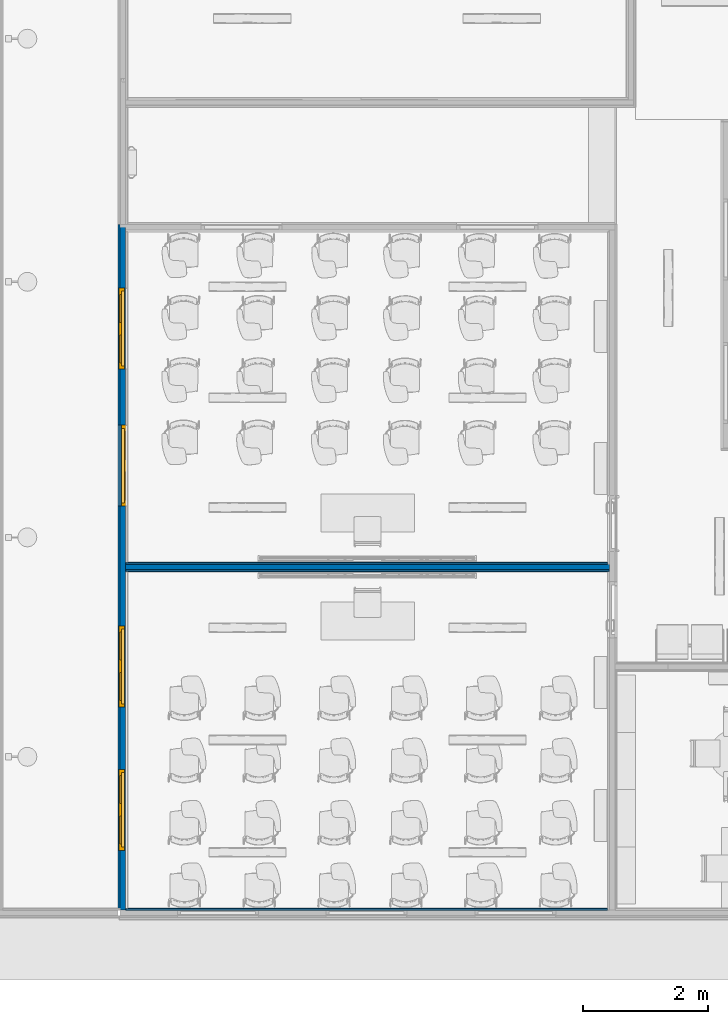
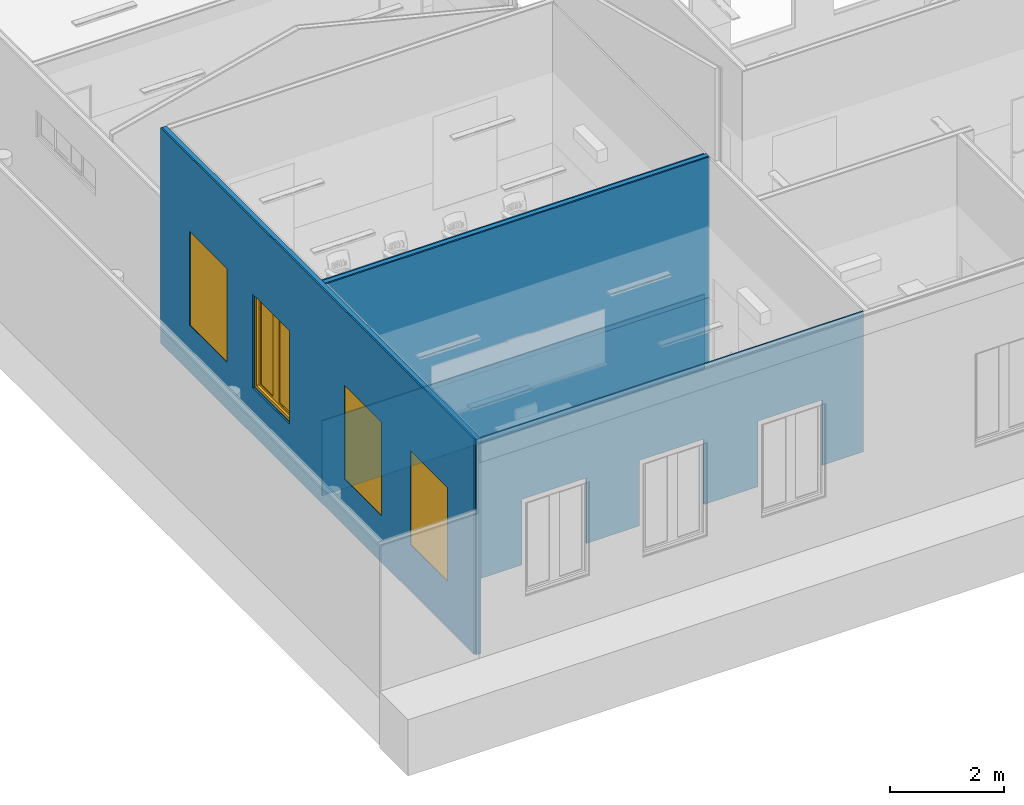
# One storey, part 3 of 155: 8 walls, 4 windows, 31 openings.
"""IFC2X3 building model written with IfcOpenShell, lengths in metres."""

from ifc_helpers import new_model, entity, si_unit, converted_unit, derived_unit, direction, frame, frame_2d, origin, origin_2d_with_axis, place, context, subcontext, project, spatial, polyline, rectangle, outline, extrude, source, transform, mapped, material, layer, layer_set, layer_usage, type_object, type_shapes, element, fill, save


model = new_model("IFC2X3")

# Units and contexts
model_context = context("Model", 3, precision=1e-05, world=origin(), true_north=direction((6.12303176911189e-17, 1.0)))
body_context = subcontext(model_context, "Body", "Model", "MODEL_VIEW")
ifc_project = project(units=[si_unit("LENGTHUNIT", "METRE"), si_unit("AREAUNIT", "SQUARE_METRE"), si_unit("VOLUMEUNIT", "CUBIC_METRE"), converted_unit("PLANEANGLEUNIT", "DEGREE", entity("IfcRatioMeasure", 0.0174532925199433), si_unit("PLANEANGLEUNIT", "RADIAN"), dimensions=[0, 0, 0, 0, 0, 0, 0]), si_unit("MASSUNIT", "GRAM", prefix="KILO"), derived_unit("MASSDENSITYUNIT", [(si_unit("MASSUNIT", "GRAM", prefix="KILO"), 1), (si_unit("LENGTHUNIT", "METRE"), -3)]), si_unit("TIMEUNIT", "SECOND"), si_unit("FREQUENCYUNIT", "HERTZ"), si_unit("THERMODYNAMICTEMPERATUREUNIT", "DEGREE_CELSIUS"), derived_unit("THERMALTRANSMITTANCEUNIT", [(si_unit("MASSUNIT", "GRAM", prefix="KILO"), 1), (si_unit("THERMODYNAMICTEMPERATUREUNIT", "KELVIN"), -1), (si_unit("TIMEUNIT", "SECOND"), -3)]), derived_unit("VOLUMETRICFLOWRATEUNIT", [(si_unit("LENGTHUNIT", "METRE"), 3), (si_unit("TIMEUNIT", "SECOND"), -1)]), si_unit("ELECTRICCURRENTUNIT", "AMPERE"), si_unit("ELECTRICVOLTAGEUNIT", "VOLT"), si_unit("POWERUNIT", "WATT"), si_unit("FORCEUNIT", "NEWTON", prefix="KILO"), si_unit("ILLUMINANCEUNIT", "LUX"), si_unit("LUMINOUSFLUXUNIT", "LUMEN"), si_unit("LUMINOUSINTENSITYUNIT", "CANDELA"), derived_unit("USERDEFINED", [(si_unit("MASSUNIT", "GRAM", prefix="KILO"), -1), (si_unit("LENGTHUNIT", "METRE"), -2), (si_unit("TIMEUNIT", "SECOND"), 3), (si_unit("LUMINOUSFLUXUNIT", "LUMEN"), 1)]), derived_unit("LINEARVELOCITYUNIT", [(si_unit("LENGTHUNIT", "METRE"), 1), (si_unit("TIMEUNIT", "SECOND"), -1)]), si_unit("PRESSUREUNIT", "PASCAL"), derived_unit("USERDEFINED", [(si_unit("LENGTHUNIT", "METRE"), -2), (si_unit("MASSUNIT", "GRAM", prefix="KILO"), 1), (si_unit("TIMEUNIT", "SECOND"), -2)])], contexts=[model_context])

# Site, building, storey
site_placement = place(None, frame((26.9889013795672, -17.5624287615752, 0.0)))
site = spatial("IfcSite", under=ifc_project, at=site_placement, Name="Default", CompositionType="ELEMENT")
building_placement = place(site_placement, origin())
building = spatial("IfcBuilding", under=site, at=building_placement, Name="C. C. L. Monsenhor Antônio Sampaio", CompositionType="ELEMENT")
storey_placement = place(building_placement, frame((0.0, 0.0, 1.19999999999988)))
storey = spatial("IfcBuildingStorey", under=building, at=storey_placement, Name="Nível 1.2", CompositionType="ELEMENT", Elevation=1.19999999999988)

# Wall, openings, windows
ifc_material_1 = material(Name="ALVENARIA")
ifc_layer_1 = layer(ifc_material_1, 0.09)
ifc_layer_set_1 = layer_set([ifc_layer_1], Name="Parede básica:ENucleo parede 15cm")
ifc_layer_usage_1 = layer_usage(ifc_layer_set_1, "AXIS2", "POSITIVE", -0.045)
wall_type_1 = type_object("IfcWallType", Name="Parede básica:ENucleo parede 15cm", PredefinedType="STANDARD", material=ifc_layer_set_1)
wall_1_placement = place(storey_placement, frame((-14.0655522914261, -39.3330663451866, 0.0), z_axis=(0.0, 0.0, 1.0), x_axis=(0.0, 1.0, 0.0)))
wall_1 = element("IfcWallStandardCase", 1, at=wall_1_placement, inside=storey, type_object=wall_type_1, material=ifc_layer_usage_1, Name="Parede básica:ENucleo parede 15cm", ObjectType="Parede básica:ENucleo parede 15cm", context=body_context, shape_type="SweptSolid", body=[
    extrude(rectangle(XDim=11.0000000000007, YDim=0.0900000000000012, at=frame_2d((5.50000000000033, 1.00613961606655e-16), x_axis=(-1.0, 0.0))), origin(), (0.0, 0.0, 1.0), 4.60000000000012),
])
opening_1_placement = place(wall_1_placement, origin())
element("IfcOpeningElement", 2, at=opening_1_placement, cuts=wall_1, Name="Parede básica:ENucleo parede 15cm", ObjectType="Opening", context=body_context, shape_type="SweptSolid", body=[
    extrude(rectangle(XDim=1.27000000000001, YDim=2.07, at=frame_2d((0.0, 1.66533453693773e-16), x_axis=(0.0, 1.0))), frame((14.3800000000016, -1.569, 1.20000000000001), z_axis=(0.0, 1.0, 0.0), x_axis=(-1.0, 0.0, 0.0)), (0.0, 0.0, 1.0), 3.048),
])
opening_2_placement = place(wall_1_placement, origin())
element("IfcOpeningElement", 3, at=opening_2_placement, cuts=wall_1, Name="Parede básica:ENucleo parede 15cm", ObjectType="Opening", context=body_context, shape_type="SweptSolid", body=[
    extrude(rectangle(XDim=1.27000000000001, YDim=2.07, at=frame_2d((0.0, 1.66533453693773e-16), x_axis=(0.0, 1.0))), frame((20.6999999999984, -1.569, 1.20000000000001), z_axis=(0.0, 1.0, 0.0), x_axis=(-1.0, 0.0, 0.0)), (0.0, 0.0, 1.0), 3.048),
])
opening_3_placement = place(wall_1_placement, origin())
element("IfcOpeningElement", 4, at=opening_3_placement, cuts=wall_1, Name="Parede básica:ENucleo parede 15cm", ObjectType="Opening", context=body_context, shape_type="SweptSolid", body=[
    extrude(rectangle(XDim=1.27000000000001, YDim=2.07, at=frame_2d((1.11022302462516e-15, 1.66533453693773e-16), x_axis=(0.0, 1.0))), frame((24.2999999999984, -1.569, 1.20000000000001), z_axis=(0.0, 1.0, 0.0), x_axis=(-1.0, 0.0, 0.0)), (0.0, 0.0, 1.0), 3.048),
])
opening_4_placement = place(wall_1_placement, origin())
element("IfcOpeningElement", 5, at=opening_4_placement, cuts=wall_1, Name="Parede básica:ENucleo parede 15cm", ObjectType="Opening", context=body_context, shape_type="SweptSolid", body=[
    extrude(rectangle(XDim=1.27000000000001, YDim=2.07, at=frame_2d((1.11022302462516e-15, 1.66533453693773e-16), x_axis=(0.0, 1.0))), frame((27.4999999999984, -1.569, 1.20000000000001), z_axis=(0.0, 1.0, 0.0), x_axis=(-1.0, 0.0, 0.0)), (0.0, 0.0, 1.0), 3.048),
])
opening_5_placement = place(wall_1_placement, origin())
element("IfcOpeningElement", 6, at=opening_5_placement, cuts=wall_1, Name="Parede básica:ENucleo parede 15cm", ObjectType="Opening", context=body_context, shape_type="SweptSolid", body=[
    extrude(rectangle(XDim=0.569999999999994, YDim=3.06999999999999, at=frame_2d((0.0, -9.99200722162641e-16), x_axis=(1.0, 0.0))), frame((27.5600000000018, -1.569, 2.05000000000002), z_axis=(0.0, 1.0, 0.0), x_axis=(0.0, 0.0, 1.0)), (0.0, 0.0, 1.0), 3.048),
])
opening_6_placement = place(wall_1_placement, origin())
element("IfcOpeningElement", 7, at=opening_6_placement, cuts=wall_1, Name="Parede básica:ENucleo parede 15cm", ObjectType="Opening", context=body_context, shape_type="SweptSolid", body=[
    extrude(rectangle(XDim=0.569999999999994, YDim=3.06999999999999, at=frame_2d((0.0, -9.99200722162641e-16), x_axis=(1.0, 0.0))), frame((23.8600000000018, -1.569, 2.05000000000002), z_axis=(0.0, 1.0, 0.0), x_axis=(0.0, 0.0, 1.0)), (0.0, 0.0, 1.0), 3.048),
])
opening_7_placement = place(wall_1_placement, origin())
element("IfcOpeningElement", 8, at=opening_7_placement, cuts=wall_1, Name="Parede básica:ENucleo parede 15cm", ObjectType="Opening", context=body_context, shape_type="SweptSolid", body=[
    extrude(rectangle(XDim=0.569999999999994, YDim=3.06999999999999, at=frame_2d((0.0, -9.99200722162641e-16), x_axis=(1.0, 0.0))), frame((20.1600000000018, -1.569, 2.05000000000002), z_axis=(0.0, 1.0, 0.0), x_axis=(0.0, 0.0, 1.0)), (0.0, 0.0, 1.0), 3.048),
])
opening_8_placement = place(wall_1_placement, origin())
element("IfcOpeningElement", 9, at=opening_8_placement, cuts=wall_1, Name="Parede básica:ENucleo parede 15cm", ObjectType="Opening", context=body_context, shape_type="SweptSolid", body=[
    extrude(rectangle(XDim=0.570000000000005, YDim=2.07, at=frame_2d((5.27355936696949e-16, 0.0), x_axis=(1.0, 0.0))), frame((14.3200000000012, -1.569, 2.05000000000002), z_axis=(0.0, 1.0, 0.0), x_axis=(0.0, 0.0, 1.0)), (0.0, 0.0, 1.0), 3.048),
])
opening_9_placement = place(wall_1_placement, origin())
element("IfcOpeningElement", 10, at=opening_9_placement, cuts=wall_1, Name="Parede básica:ENucleo parede 15cm", ObjectType="Opening", context=body_context, shape_type="SweptSolid", body=[
    extrude(rectangle(XDim=2.15999999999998, YDim=0.879999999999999, at=origin_2d_with_axis()), frame((31.3199999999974, -1.479, 1.07999999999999), z_axis=(0.0, 1.0, 0.0), x_axis=(0.0, 0.0, 1.0)), (0.0, 0.0, 1.0), 3.048),
])
opening_10_placement = place(wall_1_placement, frame((0.959999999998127, -0.0449999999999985, 1.0)))
opening_10 = element("IfcOpeningElement", 11, at=opening_10_placement, cuts=wall_1, Name="Janela levantamento:130 x 200cm 2:1", ObjectType="Opening", context=body_context, shape_type="SweptSolid", body=[
    extrude(rectangle(XDim=2.0, YDim=1.30000000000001, at=frame_2d((0.999999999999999, 0.650000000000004), x_axis=(1.0, 0.0))), frame((0.0, 0.0, 0.0), z_axis=(0.0, 1.0, 0.0), x_axis=(0.0, 0.0, 1.0)), (0.0, 0.0, 1.0), 0.09),
])
opening_11_placement = place(wall_1_placement, frame((8.68000000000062, -0.0450000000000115, 1.0)))
opening_11 = element("IfcOpeningElement", 12, at=opening_11_placement, cuts=wall_1, Name="Janela levantamento:130 x 200cm 2:1", ObjectType="Opening", context=body_context, shape_type="SweptSolid", body=[
    extrude(rectangle(XDim=2.0, YDim=1.30000000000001, at=frame_2d((0.999999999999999, 0.650000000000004), x_axis=(1.0, 0.0))), frame((0.0, 0.0, 0.0), z_axis=(0.0, 1.0, 0.0), x_axis=(0.0, 0.0, 1.0)), (0.0, 0.0, 1.0), 0.09),
])
opening_12_placement = place(wall_1_placement, frame((7.78000000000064, 0.0449999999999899, 1.0)))
opening_12 = element("IfcOpeningElement", 13, at=opening_12_placement, cuts=wall_1, Name="Janela levantamento:130 x 200cm 2:1", ObjectType="Opening", context=body_context, shape_type="SweptSolid", body=[
    extrude(rectangle(XDim=2.0, YDim=1.30000000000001, at=frame_2d((0.999999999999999, 0.650000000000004), x_axis=(1.0, 0.0))), frame((0.0, 0.0, 0.0), z_axis=(0.0, -1.0, 0.0), x_axis=(0.0, 0.0, 1.0)), (0.0, 0.0, 1.0), 0.09),
])
opening_13_placement = place(wall_1_placement, frame((3.25999999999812, -0.0450000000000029, 1.0)))
opening_13 = element("IfcOpeningElement", 14, at=opening_13_placement, cuts=wall_1, Name="Janela levantamento:130 x 200cm 2:1", ObjectType="Opening", context=body_context, shape_type="SweptSolid", body=[
    extrude(rectangle(XDim=2.0, YDim=1.30000000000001, at=frame_2d((0.999999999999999, 0.650000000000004), x_axis=(1.0, 0.0))), frame((0.0, 0.0, 0.0), z_axis=(0.0, 1.0, 0.0), x_axis=(0.0, 0.0, 1.0)), (0.0, 0.0, 1.0), 0.09),
])
ifc_material_2 = material(Name="Pintura Azul")
window_style = type_object("IfcWindowStyle", Name="130 x 200cm 2", ConstructionType="NOTDEFINED", OperationType="NOTDEFINED", ParameterTakesPrecedence=False, Sizeable=False, material=ifc_material_2)
shared_shape = source(origin(), body_context, "Body", "SweptSolid", [
    extrude(rectangle(XDim=1.3, YDim=0.0209999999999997, at=frame_2d((0.0, 4.33680868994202e-18), x_axis=(1.0, 0.0))), frame((0.650000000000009, 0.0795000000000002, 0.0)), (0.0, 0.0, 1.0), 0.0299999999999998),
    extrude(outline(polyline([(-0.325000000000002, -1.0), (0.325000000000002, -1.0), (0.325000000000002, 1.0), (-0.325000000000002, 1.0), (-0.325000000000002, -1.0)]), holes=[polyline([(0.225000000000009, -0.899999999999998), (-0.225000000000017, -0.899999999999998), (-0.225000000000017, 0.900000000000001), (0.225000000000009, 0.900000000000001), (0.225000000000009, -0.899999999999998)])]), frame((0.325000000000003, 0.0690000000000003, 1.0), z_axis=(0.0, 1.0, 0.0), x_axis=(1.0, 0.0, 0.0)), (0.0, 0.0, 1.0), 0.04),
    extrude(outline(polyline([(-0.650000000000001, -1.0), (0.650000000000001, -1.0), (0.650000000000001, 1.0), (-0.650000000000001, 1.0), (-0.650000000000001, -1.0)]), holes=[polyline([(-0.599999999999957, -0.949999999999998), (-0.599999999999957, 0.94), (0.600000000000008, 0.94), (0.600000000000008, -0.949999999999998), (-0.599999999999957, -0.949999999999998)])]), frame((0.650000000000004, 0.019, 1.0), z_axis=(0.0, 1.0, 0.0), x_axis=(1.0, 0.0, 0.0)), (0.0, 0.0, 1.0), 0.05),
    extrude(rectangle(XDim=0.0205880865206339, YDim=0.450000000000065, at=origin_2d_with_axis()), frame((0.324999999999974, 0.0987059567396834, 0.0999999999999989), z_axis=(0.0, 0.0, 1.0), x_axis=(0.0, 1.0, 0.0)), (0.0, 0.0, 1.0), 1.8),
    extrude(rectangle(XDim=0.0205880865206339, YDim=0.449999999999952, at=frame_2d((0.0, 4.16333634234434e-17), x_axis=(1.0, 0.0))), frame((0.977826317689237, 0.0987059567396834, 0.100000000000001), z_axis=(0.0, 0.0, 1.0), x_axis=(0.0, 1.0, 0.0)), (0.0, 0.0, 1.0), 1.8),
    extrude(outline(polyline([(-1.0, -0.325000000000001), (1.0, -0.325000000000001), (1.0, 0.325000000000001), (-1.0, 0.325000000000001), (-1.0, -0.325000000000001)]), holes=[polyline([(-0.899999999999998, 0.224999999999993), (0.900000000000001, 0.224999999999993), (0.900000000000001, -0.225000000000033), (-0.899999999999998, -0.225000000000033), (-0.899999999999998, 0.224999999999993)])]), frame((0.975000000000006, 0.0690000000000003, 1.0), z_axis=(0.0, 1.0, 0.0), x_axis=(0.0, 0.0, -1.0)), (0.0, 0.0, 1.0), 0.04),
])
type_shapes(window_style, [shared_shape])
window_1_placement = place(opening_11_placement, origin())
window_1 = element("IfcWindow", 15, at=window_1_placement, inside=storey, type_object=window_style, material=ifc_material_2, Name="Janela levantamento:130 x 200cm 2", ObjectType="130 x 200cm 2", OverallHeight=2.0, OverallWidth=1.30000000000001, context=body_context, shape_type="MappedRepresentation", body=[
    mapped(shared_shape, transform((0.0, 0.0, 0.0), scale=1.0)),
])
fill(opening_11, window_1)
window_2_placement = place(opening_12_placement, frame((0.0, 0.0, 0.0), z_axis=(0.0, 0.0, 1.0), x_axis=(-1.0, 0.0, 0.0)))
window_2 = element("IfcWindow", 16, at=window_2_placement, inside=storey, type_object=window_style, material=ifc_material_2, Name="Janela levantamento:130 x 200cm 2", ObjectType="130 x 200cm 2", OverallHeight=2.0, OverallWidth=1.30000000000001, context=body_context, shape_type="MappedRepresentation", body=[
    mapped(shared_shape, transform((0.0, 0.0, 0.0), scale=1.0)),
])
fill(opening_12, window_2)
window_3_placement = place(opening_13_placement, origin())
window_3 = element("IfcWindow", 17, at=window_3_placement, inside=storey, type_object=window_style, material=ifc_material_2, Name="Janela levantamento:130 x 200cm 2", ObjectType="130 x 200cm 2", OverallHeight=2.0, OverallWidth=1.30000000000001, context=body_context, shape_type="MappedRepresentation", body=[
    mapped(shared_shape, transform((0.0, 0.0, 0.0), scale=1.0)),
])
fill(opening_13, window_3)
window_4_placement = place(opening_10_placement, origin())
window_4 = element("IfcWindow", 18, at=window_4_placement, inside=storey, type_object=window_style, material=ifc_material_2, Name="Janela levantamento:130 x 200cm 2", ObjectType="130 x 200cm 2", OverallHeight=2.0, OverallWidth=1.30000000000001, context=body_context, shape_type="MappedRepresentation", body=[
    mapped(shared_shape, transform((0.0, 0.0, 0.0), scale=1.0)),
])
fill(opening_10, window_4)

# Walls
ifc_layer_usage_2 = layer_usage(ifc_layer_set_1, "AXIS2", "POSITIVE", -0.045)
wall_2_placement = place(storey_placement, frame((-14.0205522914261, -33.8280663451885, 0.0)))
element("IfcWallStandardCase", 19, at=wall_2_placement, inside=storey, type_object=wall_type_1, material=ifc_layer_usage_2, Name="Parede básica:ENucleo parede 15cm", ObjectType="Parede básica:ENucleo parede 15cm", context=body_context, shape_type="SweptSolid", body=[
    extrude(rectangle(XDim=7.75999999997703, YDim=0.0899999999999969, at=frame_2d((3.87999999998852, 5.20417042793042e-17), x_axis=(-1.0, 0.0))), origin(), (0.0, 0.0, 1.0), 4.60000000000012),
])
ifc_material_3 = material(Name=".CERÂMICA 10x10 BRANCA")
ifc_layer_2 = layer(ifc_material_3, 0.0035)
ifc_material_4 = material(Name="Argamassa Colante")
ifc_layer_3 = layer(ifc_material_4, 0.02)
ifc_material_5 = material(Name="4")
ifc_layer_4 = layer(ifc_material_5, 0.0015)
ifc_material_6 = material(Name="3")
ifc_layer_5 = layer(ifc_material_6, 0.005)
ifc_layer_set_2 = layer_set([ifc_layer_2, ifc_layer_3, ifc_layer_4, ifc_layer_5], Name="Parede básica:ECeramica branca 10x10cm")
ifc_layer_usage_3 = layer_usage(ifc_layer_set_2, "AXIS2", "POSITIVE", -0.015)
wall_type_2 = type_object("IfcWallType", Name="Parede básica:ECeramica branca 10x10cm", PredefinedType="STANDARD", material=ifc_layer_set_2)
wall_3_placement = place(storey_placement, frame((-14.0205522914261, -33.8880663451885, 0.0)))
element("IfcWallStandardCase", 20, at=wall_3_placement, inside=storey, type_object=wall_type_2, material=ifc_layer_usage_3, Name="Parede básica:ECeramica branca 10x10cm", ObjectType="Parede básica:ECeramica branca 10x10cm", context=body_context, shape_type="SweptSolid", body=[
    extrude(rectangle(XDim=7.75999999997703, YDim=0.0300000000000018, at=frame_2d((3.87999999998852, 0.0), x_axis=(-1.0, 0.0))), origin(), (0.0, 0.0, 1.0), 1.6),
])
ifc_layer_usage_4 = layer_usage(ifc_layer_set_2, "AXIS2", "POSITIVE", -0.015)
wall_4_placement = place(storey_placement, frame((-6.29055229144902, -33.7680663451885, 0.0), z_axis=(0.0, 0.0, 1.0), x_axis=(-1.0, 0.0, 0.0)))
element("IfcWallStandardCase", 21, at=wall_4_placement, inside=storey, type_object=wall_type_2, material=ifc_layer_usage_4, Name="Parede básica:ECeramica branca 10x10cm", ObjectType="Parede básica:ECeramica branca 10x10cm", context=body_context, shape_type="SweptSolid", body=[
    extrude(rectangle(XDim=7.72999999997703, YDim=0.0300000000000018, at=frame_2d((3.86499999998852, 0.0), x_axis=(-1.0, 0.0))), origin(), (0.0, 0.0, 1.0), 1.6),
])
ifc_material_7 = material(Name="Acabamento Branco")
ifc_layer_6 = layer(ifc_material_7, 0.0035)
ifc_material_8 = material(Name="Massa corrida")
ifc_layer_7 = layer(ifc_material_8, 0.02)
ifc_layer_8 = layer(ifc_material_5, 0.0015)
ifc_layer_9 = layer(ifc_material_6, 0.005)
ifc_layer_set_3 = layer_set([ifc_layer_6, ifc_layer_7, ifc_layer_8, ifc_layer_9], Name="Parede básica:EPintura Branca")
ifc_layer_usage_5 = layer_usage(ifc_layer_set_3, "AXIS2", "POSITIVE", -0.015)
wall_type_3 = type_object("IfcWallType", Name="Parede básica:EPintura Branca", PredefinedType="STANDARD", material=ifc_layer_set_3)
wall_5_placement = place(storey_placement, frame((-14.0205522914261, -33.8880663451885, 1.6)))
element("IfcWallStandardCase", 22, at=wall_5_placement, inside=storey, type_object=wall_type_3, material=ifc_layer_usage_5, Name="Parede básica:EPintura Branca", ObjectType="Parede básica:EPintura Branca", context=body_context, shape_type="SweptSolid", body=[
    extrude(rectangle(XDim=7.75999999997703, YDim=0.0300000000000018, at=frame_2d((3.87999999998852, 0.0), x_axis=(-1.0, 0.0))), origin(), (0.0, 0.0, 1.0), 3.00000000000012),
])

# Wall, openings
ifc_layer_usage_6 = layer_usage(ifc_layer_set_3, "AXIS2", "POSITIVE", -0.015)
wall_6_placement = place(storey_placement, frame((-6.29055229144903, -39.3180663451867, 1.6), z_axis=(0.0, 0.0, 1.0), x_axis=(-1.0, 0.0, 0.0)))
wall_6 = element("IfcWallStandardCase", 23, at=wall_6_placement, inside=storey, type_object=wall_type_3, material=ifc_layer_usage_6, Name="Parede básica:EPintura Branca", ObjectType="Parede básica:EPintura Branca", context=body_context, shape_type="SweptSolid", body=[
    extrude(rectangle(XDim=7.72999999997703, YDim=0.0299999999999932, at=frame_2d((3.86499999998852, 0.0), x_axis=(-1.0, 0.0))), origin(), (0.0, 0.0, 1.0), 3.00000000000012),
])
opening_14_placement = place(wall_6_placement, origin())
element("IfcOpeningElement", 24, at=opening_14_placement, cuts=wall_6, Name="Parede básica:EPintura Branca", ObjectType="Opening", context=body_context, shape_type="SweptSolid", body=[
    extrude(rectangle(XDim=2.0, YDim=1.30000000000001, at=frame_2d((0.0, -3.88578058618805e-16), x_axis=(0.0, 1.0))), frame((6.24999999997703, -1.419, 0.400000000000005), z_axis=(0.0, 1.0, 0.0), x_axis=(-1.0, 0.0, 0.0)), (0.0, 0.0, 1.0), 3.048),
])
opening_15_placement = place(wall_6_placement, origin())
element("IfcOpeningElement", 25, at=opening_15_placement, cuts=wall_6, Name="Parede básica:EPintura Branca", ObjectType="Opening", context=body_context, shape_type="SweptSolid", body=[
    extrude(rectangle(XDim=2.0, YDim=1.30000000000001, at=frame_2d((-4.9960036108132e-16, -3.88578058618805e-16), x_axis=(0.0, 1.0))), frame((3.86999999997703, -1.419, 0.400000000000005), z_axis=(0.0, 1.0, 0.0), x_axis=(-1.0, 0.0, 0.0)), (0.0, 0.0, 1.0), 3.048),
])
opening_16_placement = place(wall_6_placement, origin())
element("IfcOpeningElement", 26, at=opening_16_placement, cuts=wall_6, Name="Parede básica:EPintura Branca", ObjectType="Opening", context=body_context, shape_type="SweptSolid", body=[
    extrude(rectangle(XDim=2.0, YDim=1.30000000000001, at=frame_2d((0.0, -3.88578058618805e-16), x_axis=(0.0, 1.0))), frame((1.47999999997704, -1.41900000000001, 0.400000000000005), z_axis=(0.0, 1.0, 0.0), x_axis=(-1.0, 0.0, 0.0)), (0.0, 0.0, 1.0), 3.048),
])
opening_17_placement = place(wall_6_placement, origin())
element("IfcOpeningElement", 27, at=opening_17_placement, cuts=wall_6, Name="Parede básica:EPintura Branca", ObjectType="Opening", context=body_context, shape_type="SweptSolid", body=[
    extrude(rectangle(XDim=3.09999999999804, YDim=1.4, at=frame_2d((0.0, -3.33066907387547e-16), x_axis=(0.0, 1.0))), frame((-5.03999999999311, -1.509, -0.0500000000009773), z_axis=(0.0, 1.0, 0.0), x_axis=(-1.0, 0.0, 0.0)), (0.0, 0.0, 1.0), 3.04799999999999),
])
opening_18_placement = place(wall_6_placement, origin())
element("IfcOpeningElement", 28, at=opening_18_placement, cuts=wall_6, Name="Parede básica:EPintura Branca", ObjectType="Opening", context=body_context, shape_type="SweptSolid", body=[
    extrude(rectangle(XDim=2.0, YDim=1.30000000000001, at=frame_2d((1.66533453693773e-16, 0.0), x_axis=(1.0, 0.0))), frame((-2.82999999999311, -1.41900000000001, 0.400000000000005), z_axis=(0.0, 1.0, 0.0), x_axis=(0.0, 0.0, 1.0)), (0.0, 0.0, 1.0), 3.048),
])
opening_19_placement = place(wall_6_placement, origin())
element("IfcOpeningElement", 29, at=opening_19_placement, cuts=wall_6, Name="Parede básica:EPintura Branca", ObjectType="Opening", context=body_context, shape_type="SweptSolid", body=[
    extrude(rectangle(XDim=2.0, YDim=1.30000000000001, at=frame_2d((1.66533453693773e-16, -1.11022302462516e-16), x_axis=(1.0, 0.0))), frame((-7.37000000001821, -1.509, 0.400000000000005), z_axis=(0.0, 1.0, 0.0), x_axis=(0.0, 0.0, 1.0)), (0.0, 0.0, 1.0), 3.04800000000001),
])
opening_20_placement = place(wall_6_placement, origin())
element("IfcOpeningElement", 30, at=opening_20_placement, cuts=wall_6, Name="Parede básica:EPintura Branca", ObjectType="Opening", context=body_context, shape_type="SweptSolid", body=[
    extrude(rectangle(XDim=2.0, YDim=1.30000000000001, at=frame_2d((1.66533453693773e-16, -2.22044604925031e-16), x_axis=(1.0, 0.0))), frame((-11.6200000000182, -1.509, 0.400000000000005), z_axis=(0.0, 1.0, 0.0), x_axis=(0.0, 0.0, 1.0)), (0.0, 0.0, 1.0), 3.048),
])
opening_21_placement = place(wall_6_placement, origin())
element("IfcOpeningElement", 31, at=opening_21_placement, cuts=wall_6, Name="Parede básica:EPintura Branca", ObjectType="Opening", context=body_context, shape_type="SweptSolid", body=[
    extrude(rectangle(XDim=2.0, YDim=1.30000000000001, at=frame_2d((1.66533453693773e-16, 0.0), x_axis=(1.0, 0.0))), frame((-14.0, -1.50900000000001, 0.400000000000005), z_axis=(0.0, 1.0, 0.0), x_axis=(0.0, 0.0, 1.0)), (0.0, 0.0, 1.0), 3.048),
])
opening_22_placement = place(wall_6_placement, origin())
element("IfcOpeningElement", 32, at=opening_22_placement, cuts=wall_6, Name="Parede básica:EPintura Branca", ObjectType="Opening", context=body_context, shape_type="SweptSolid", body=[
    extrude(rectangle(XDim=2.0, YDim=1.30000000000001, at=frame_2d((1.66533453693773e-16, 0.0), x_axis=(1.0, 0.0))), frame((-16.3800000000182, -1.509, 0.400000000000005), z_axis=(0.0, 1.0, 0.0), x_axis=(0.0, 0.0, 1.0)), (0.0, 0.0, 1.0), 3.048),
])

# Wall
ifc_layer_usage_7 = layer_usage(ifc_layer_set_3, "AXIS2", "POSITIVE", -0.015)
wall_7_placement = place(storey_placement, frame((-6.29055229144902, -33.7680663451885, 1.6), z_axis=(0.0, 0.0, 1.0), x_axis=(-1.0, 0.0, 0.0)))
element("IfcWallStandardCase", 33, at=wall_7_placement, inside=storey, type_object=wall_type_3, material=ifc_layer_usage_7, Name="Parede básica:EPintura Branca", ObjectType="Parede básica:EPintura Branca", context=body_context, shape_type="SweptSolid", body=[
    extrude(rectangle(XDim=7.72999999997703, YDim=0.0300000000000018, at=frame_2d((3.86499999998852, 0.0), x_axis=(-1.0, 0.0))), origin(), (0.0, 0.0, 1.0), 3.00000000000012),
])

# Wall, openings
ifc_material_9 = material(Name="Acabamento amarelo")
ifc_layer_10 = layer(ifc_material_9, 0.0035)
ifc_layer_11 = layer(ifc_material_8, 0.02)
ifc_layer_12 = layer(ifc_material_5, 0.0015)
ifc_layer_13 = layer(ifc_material_6, 0.005)
ifc_layer_set_4 = layer_set([ifc_layer_10, ifc_layer_11, ifc_layer_12, ifc_layer_13], Name="Parede básica:EPintura amarela")
ifc_layer_usage_8 = layer_usage(ifc_layer_set_4, "AXIS2", "NEGATIVE", 0.015)
wall_type_4 = type_object("IfcWallType", Name="Parede básica:EPintura amarela", PredefinedType="STANDARD", material=ifc_layer_set_4)
wall_8_placement = place(storey_placement, frame((-14.1255522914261, -39.3030663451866, 0.0), z_axis=(0.0, 0.0, 1.0), x_axis=(0.0, 1.0, 0.0)))
wall_8 = element("IfcWallStandardCase", 34, at=wall_8_placement, inside=storey, type_object=wall_type_4, material=ifc_layer_usage_8, Name="Parede básica:EPintura amarela", ObjectType="Parede básica:EPintura amarela", context=body_context, shape_type="SweptSolid", body=[
    extrude(rectangle(XDim=10.9700000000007, YDim=0.0300000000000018, at=frame_2d((5.48500000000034, -3.46944695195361e-18), x_axis=(-1.0, 0.0))), origin(), (0.0, 0.0, 1.0), 4.60000000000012),
])
opening_23_placement = place(wall_8_placement, origin())
element("IfcOpeningElement", 35, at=opening_23_placement, cuts=wall_8, Name="Parede básica:EPintura amarela", ObjectType="Opening", context=body_context, shape_type="SweptSolid", body=[
    extrude(rectangle(XDim=2.0, YDim=1.30000000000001, at=frame_2d((1.66533453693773e-16, -4.32986979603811e-15), x_axis=(1.0, 0.0))), frame((9.30000000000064, -1.629, 2.0), z_axis=(0.0, 1.0, 0.0), x_axis=(0.0, 0.0, 1.0)), (0.0, 0.0, 1.0), 3.048),
])
opening_24_placement = place(wall_8_placement, origin())
element("IfcOpeningElement", 36, at=opening_24_placement, cuts=wall_8, Name="Parede básica:EPintura amarela", ObjectType="Opening", context=body_context, shape_type="SweptSolid", body=[
    extrude(rectangle(XDim=2.0, YDim=1.30000000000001, at=frame_2d((4.32986979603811e-15, -3.88578058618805e-16), x_axis=(0.0, 1.0))), frame((7.10000000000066, -1.539, 2.0), z_axis=(0.0, 1.0, 0.0), x_axis=(-1.0, 0.0, 0.0)), (0.0, 0.0, 1.0), 3.048),
])
opening_25_placement = place(wall_8_placement, origin())
element("IfcOpeningElement", 37, at=opening_25_placement, cuts=wall_8, Name="Parede básica:EPintura amarela", ObjectType="Opening", context=body_context, shape_type="SweptSolid", body=[
    extrude(rectangle(XDim=2.0, YDim=1.30000000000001, at=frame_2d((1.66533453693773e-16, 0.0), x_axis=(1.0, 0.0))), frame((3.87999999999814, -1.629, 2.0), z_axis=(0.0, 1.0, 0.0), x_axis=(0.0, 0.0, 1.0)), (0.0, 0.0, 1.0), 3.048),
])
opening_26_placement = place(wall_8_placement, origin())
element("IfcOpeningElement", 38, at=opening_26_placement, cuts=wall_8, Name="Parede básica:EPintura amarela", ObjectType="Opening", context=body_context, shape_type="SweptSolid", body=[
    extrude(rectangle(XDim=2.0, YDim=1.30000000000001, at=frame_2d((1.66533453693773e-16, 0.0), x_axis=(1.0, 0.0))), frame((1.57999999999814, -1.629, 2.0), z_axis=(0.0, 1.0, 0.0), x_axis=(0.0, 0.0, 1.0)), (0.0, 0.0, 1.0), 3.048),
])
opening_27_placement = place(wall_8_placement, origin())
element("IfcOpeningElement", 39, at=opening_27_placement, cuts=wall_8, Name="Parede básica:EPintura amarela", ObjectType="Opening", context=body_context, shape_type="SweptSolid", body=[
    extrude(rectangle(XDim=0.569999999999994, YDim=3.06999999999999, at=frame_2d((0.0, -9.99200722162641e-16), x_axis=(1.0, 0.0))), frame((27.5300000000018, -1.629, 2.05000000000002), z_axis=(0.0, 1.0, 0.0), x_axis=(0.0, 0.0, 1.0)), (0.0, 0.0, 1.0), 3.048),
])
opening_28_placement = place(wall_8_placement, origin())
element("IfcOpeningElement", 40, at=opening_28_placement, cuts=wall_8, Name="Parede básica:EPintura amarela", ObjectType="Opening", context=body_context, shape_type="SweptSolid", body=[
    extrude(rectangle(XDim=0.569999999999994, YDim=3.06999999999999, at=frame_2d((0.0, -9.99200722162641e-16), x_axis=(1.0, 0.0))), frame((23.8300000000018, -1.629, 2.05000000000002), z_axis=(0.0, 1.0, 0.0), x_axis=(0.0, 0.0, 1.0)), (0.0, 0.0, 1.0), 3.048),
])
opening_29_placement = place(wall_8_placement, origin())
element("IfcOpeningElement", 41, at=opening_29_placement, cuts=wall_8, Name="Parede básica:EPintura amarela", ObjectType="Opening", context=body_context, shape_type="SweptSolid", body=[
    extrude(rectangle(XDim=0.569999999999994, YDim=3.06999999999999, at=frame_2d((0.0, -9.99200722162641e-16), x_axis=(1.0, 0.0))), frame((20.1300000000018, -1.629, 2.05000000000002), z_axis=(0.0, 1.0, 0.0), x_axis=(0.0, 0.0, 1.0)), (0.0, 0.0, 1.0), 3.048),
])
opening_30_placement = place(wall_8_placement, origin())
element("IfcOpeningElement", 42, at=opening_30_placement, cuts=wall_8, Name="Parede básica:EPintura amarela", ObjectType="Opening", context=body_context, shape_type="SweptSolid", body=[
    extrude(rectangle(XDim=0.570000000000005, YDim=2.07, at=frame_2d((5.27355936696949e-16, 0.0), x_axis=(1.0, 0.0))), frame((14.2900000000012, -1.629, 2.05000000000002), z_axis=(0.0, 1.0, 0.0), x_axis=(0.0, 0.0, 1.0)), (0.0, 0.0, 1.0), 3.048),
])
opening_31_placement = place(wall_8_placement, origin())
element("IfcOpeningElement", 43, at=opening_31_placement, cuts=wall_8, Name="Parede básica:EPintura amarela", ObjectType="Opening", context=body_context, shape_type="SweptSolid", body=[
    extrude(rectangle(XDim=2.15999999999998, YDim=0.879999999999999, at=origin_2d_with_axis()), frame((31.2899999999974, -1.539, 1.07999999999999), z_axis=(0.0, 1.0, 0.0), x_axis=(0.0, 0.0, 1.0)), (0.0, 0.0, 1.0), 3.048),
])

save(model, "model.ifc")
